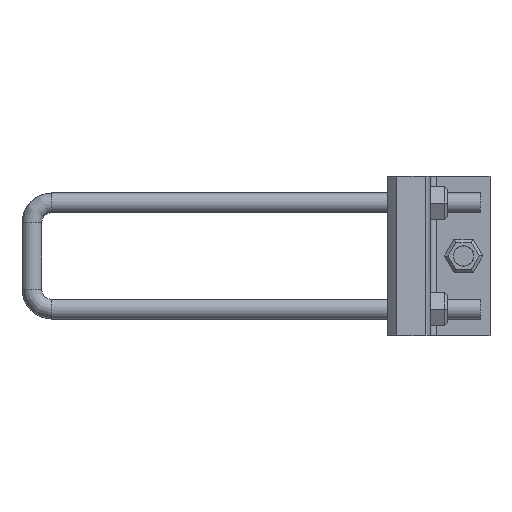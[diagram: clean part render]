
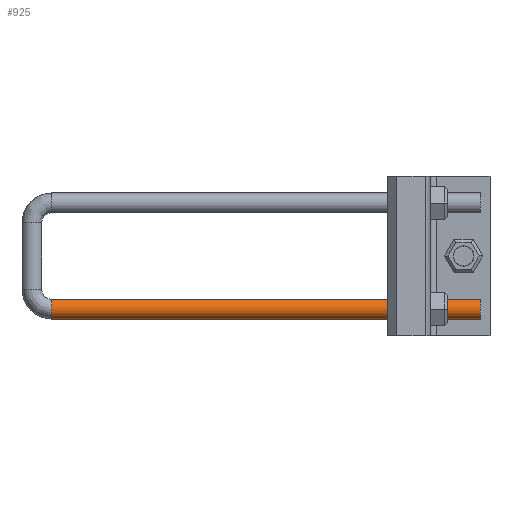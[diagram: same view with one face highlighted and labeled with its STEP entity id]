
A CAD part, left-side view. The second image highlights one B-rep face of the part: STEP entity #925.
In plain terms, the highlighted cylindrical face has radius 4.763 mm (diameter 9.525 mm), a partial arc.
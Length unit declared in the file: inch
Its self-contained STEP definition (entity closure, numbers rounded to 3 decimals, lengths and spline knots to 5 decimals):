
#925=ADVANCED_FACE('',(#2220),#2221,.T.);
#1171=EDGE_CURVE('',#2484,#2483,#2576,.T.);
#2220=FACE_OUTER_BOUND('',#4184,.T.);
#2221=CYLINDRICAL_SURFACE('',#4185,0.1875);
#2483=VERTEX_POINT('',#4676);
#2484=VERTEX_POINT('',#4677);
#2576=CIRCLE('',#4897,0.1875);
#4184=EDGE_LOOP('',(#6774,#6775,#6776,#6777));
#4185=AXIS2_PLACEMENT_3D('',#6778,#6779,#6780);
#4676=CARTESIAN_POINT('',(-9.87306,8.2507,0.3125));
#4677=CARTESIAN_POINT('',(-9.87306,8.2507,0.6875));
#4897=AXIS2_PLACEMENT_3D('',#7188,#7189,#7190);
#6774=ORIENTED_EDGE('',*,*,#8177,.F.);
#6775=ORIENTED_EDGE('',*,*,#8178,.T.);
#6776=ORIENTED_EDGE('',*,*,#8179,.F.);
#6777=ORIENTED_EDGE('',*,*,#1171,.T.);
#6778=CARTESIAN_POINT('',(-9.87306,5.06269,0.5));
#6779=DIRECTION('',(-0.0,-1.0,-0.0));
#6780=DIRECTION('',(0.0,0.0,-1.0));
#7188=CARTESIAN_POINT('',(-9.87306,8.2507,0.5));
#7189=DIRECTION('',(0.0,-1.0,0.0));
#7190=DIRECTION('',(0.0,0.0,-1.0));
#8177=EDGE_CURVE('',#8444,#2483,#8445,.T.);
#8178=EDGE_CURVE('',#8444,#8446,#8447,.T.);
#8179=EDGE_CURVE('',#2484,#8446,#8448,.T.);
#8444=VERTEX_POINT('',#8751);
#8445=LINE('',#8752,#8753);
#8446=VERTEX_POINT('',#8754);
#8447=CIRCLE('',#8755,0.1875);
#8448=LINE('',#8756,#8757);
#8751=CARTESIAN_POINT('',(-9.87306,0.18769,0.3125));
#8752=CARTESIAN_POINT('',(-9.87306,5.06269,0.3125));
#8753=VECTOR('',#9011,1.0);
#8754=CARTESIAN_POINT('',(-9.87306,0.18769,0.6875));
#8755=AXIS2_PLACEMENT_3D('',#9012,#9013,#9014);
#8756=CARTESIAN_POINT('',(-9.87306,5.06269,0.6875));
#8757=VECTOR('',#9015,1.0);
#9011=DIRECTION('',(0.0,1.0,0.0));
#9012=CARTESIAN_POINT('',(-9.87306,0.18769,0.5));
#9013=DIRECTION('',(0.0,1.0,0.0));
#9014=DIRECTION('',(0.0,0.0,-1.0));
#9015=DIRECTION('',(-0.0,-1.0,-0.0));
